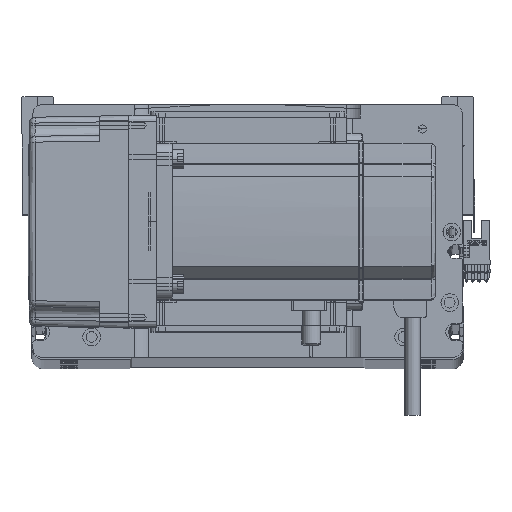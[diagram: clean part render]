
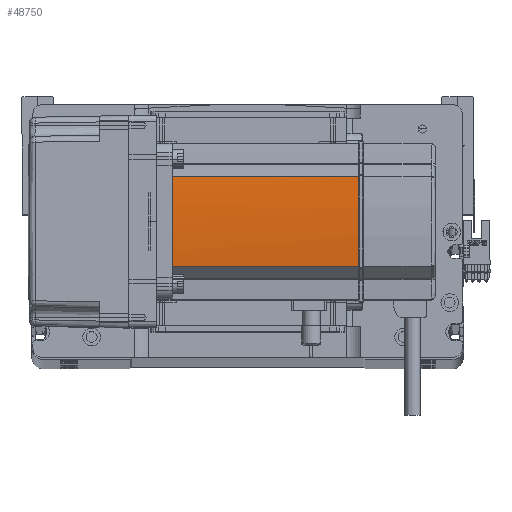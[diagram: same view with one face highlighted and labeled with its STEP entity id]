
A CAD part, top view. The second image highlights one B-rep face of the part: STEP entity #48750.
In plain terms, the highlighted cylindrical face has radius 270 mm (diameter 540 mm), a partial arc.
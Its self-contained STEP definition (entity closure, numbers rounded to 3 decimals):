
#1144 = AXIS2_PLACEMENT_3D ( 'NONE', #14320, #27670, #18977 ) ;
#1334 = EDGE_CURVE ( 'NONE', #43700, #31788, #53605, .T. ) ;
#2564 = CARTESIAN_POINT ( 'NONE',  ( 40., 0.127, 134. ) ) ;
#6476 = CARTESIAN_POINT ( 'NONE',  ( 40., -0.127, 134. ) ) ;
#7011 = EDGE_CURVE ( 'NONE', #43700, #10236, #19545, .T. ) ;
#8767 = DIRECTION ( 'NONE',  ( -1., 0., 0. ) ) ;
#9523 = FACE_OUTER_BOUND ( 'NONE', #46365, .T. ) ;
#9725 = VERTEX_POINT ( 'NONE', #11568 ) ;
#9845 = ORIENTED_EDGE ( 'NONE', *, *, #1334, .T. ) ;
#10236 = VERTEX_POINT ( 'NONE', #2564 ) ;
#10388 = CARTESIAN_POINT ( 'NONE',  ( 40., -0.042, 134. ) ) ;
#11088 = CIRCLE ( 'NONE', #1144, 270. ) ;
#11207 = CARTESIAN_POINT ( 'NONE',  ( 39.042, -22.724, 134. ) ) ;
#11434 = VERTEX_POINT ( 'NONE', #18216 ) ;
#11568 = CARTESIAN_POINT ( 'NONE',  ( 39.042, -22.724, 39. ) ) ;
#13945 = CIRCLE ( 'NONE', #19650, 270. ) ;
#14320 = CARTESIAN_POINT ( 'NONE',  ( -230., 0., 39. ) ) ;
#14363 = CARTESIAN_POINT ( 'NONE',  ( -230., 0., 134. ) ) ;
#14822 = CARTESIAN_POINT ( 'NONE',  ( 40., 0.042, 134. ) ) ;
#17452 = CARTESIAN_POINT ( 'NONE',  ( -230., 0., 134. ) ) ;
#17838 = EDGE_CURVE ( 'NONE', #31788, #9725, #26438, .T. ) ;
#18216 = CARTESIAN_POINT ( 'NONE',  ( 39.042, 22.724, 134. ) ) ;
#18578 = DIRECTION ( 'NONE',  ( 0., 0., -1. ) ) ;
#18894 = ORIENTED_EDGE ( 'NONE', *, *, #7011, .F. ) ;
#18977 = DIRECTION ( 'NONE',  ( -1., 0., 0. ) ) ;
#19545 = B_SPLINE_CURVE_WITH_KNOTS ( 'NONE', 3,
 ( #6476, #10388, #14822, #47062 ),
 .UNSPECIFIED., .F., .F.,
 ( 4, 4 ),
 ( 0., 1. ),
 .UNSPECIFIED. ) ;
#19650 = AXIS2_PLACEMENT_3D ( 'NONE', #17452, #43908, #8767 ) ;
#22061 = CARTESIAN_POINT ( 'NONE',  ( 40., -0.127, 134. ) ) ;
#26438 = LINE ( 'NONE', #34572, #48679 ) ;
#27670 = DIRECTION ( 'NONE',  ( 0., 0., -1. ) ) ;
#27903 = DIRECTION ( 'NONE',  ( 0., 0., 1. ) ) ;
#28212 = CYLINDRICAL_SURFACE ( 'NONE', #54348, 270. ) ;
#28465 = CARTESIAN_POINT ( 'NONE',  ( 39.042, 22.724, 39. ) ) ;
#31788 = VERTEX_POINT ( 'NONE', #11207 ) ;
#32396 = ORIENTED_EDGE ( 'NONE', *, *, #56336, .T. ) ;
#32765 = CARTESIAN_POINT ( 'NONE',  ( 39.042, 22.724, 58. ) ) ;
#34572 = CARTESIAN_POINT ( 'NONE',  ( 39.042, -22.724, 58. ) ) ;
#35308 = ORIENTED_EDGE ( 'NONE', *, *, #17838, .T. ) ;
#36526 = VERTEX_POINT ( 'NONE', #28465 ) ;
#37502 = VECTOR ( 'NONE', #27903, 1000. ) ;
#40568 = DIRECTION ( 'NONE',  ( 0., 0., -1. ) ) ;
#40707 = CARTESIAN_POINT ( 'NONE',  ( -230., 0., 58. ) ) ;
#42686 = AXIS2_PLACEMENT_3D ( 'NONE', #14363, #40568, #49712 ) ;
#42704 = ORIENTED_EDGE ( 'NONE', *, *, #56674, .F. ) ;
#43700 = VERTEX_POINT ( 'NONE', #22061 ) ;
#43908 = DIRECTION ( 'NONE',  ( 0., 0., -1. ) ) ;
#44834 = DIRECTION ( 'NONE',  ( -1., 0., 0. ) ) ;
#46234 = EDGE_CURVE ( 'NONE', #11434, #10236, #13945, .T. ) ;
#46365 = EDGE_LOOP ( 'NONE', ( #35308, #42704, #32396, #48398, #18894, #9845 ) ) ;
#46567 = LINE ( 'NONE', #32765, #37502 ) ;
#47062 = CARTESIAN_POINT ( 'NONE',  ( 40., 0.127, 134. ) ) ;
#48398 = ORIENTED_EDGE ( 'NONE', *, *, #46234, .T. ) ;
#48679 = VECTOR ( 'NONE', #51720, 1000. ) ;
#48750 = ADVANCED_FACE ( 'NONE', ( #9523 ), #28212, .T. ) ;
#49712 = DIRECTION ( 'NONE',  ( -1., 0., 0. ) ) ;
#51720 = DIRECTION ( 'NONE',  ( 0., 0., -1. ) ) ;
#53605 = CIRCLE ( 'NONE', #42686, 270. ) ;
#54348 = AXIS2_PLACEMENT_3D ( 'NONE', #40707, #18578, #44834 ) ;
#56336 = EDGE_CURVE ( 'NONE', #36526, #11434, #46567, .T. ) ;
#56674 = EDGE_CURVE ( 'NONE', #36526, #9725, #11088, .T. ) ;
